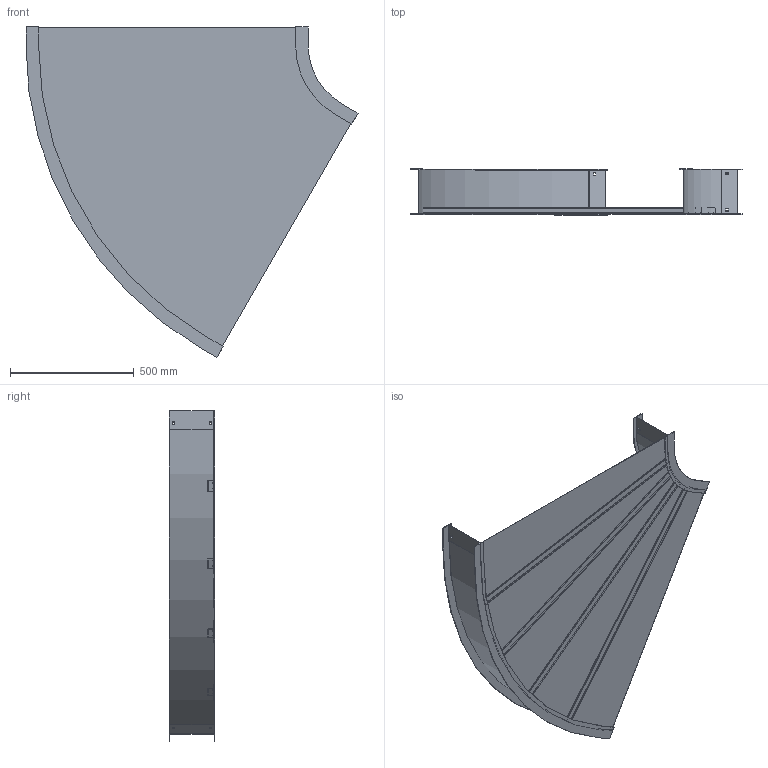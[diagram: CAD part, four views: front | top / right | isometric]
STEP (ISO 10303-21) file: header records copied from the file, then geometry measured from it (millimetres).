
FILE_DESCRIPTION((''),'2;1');
FILE_NAME('AHF742SHB6012_ASM','2010-01-28T',('erouzier'),(''),'PRO/ENGINEER BY PARAMETRIC TECHNOLOGY CORPORATION, 2008510','PRO/ENGINEER BY PARAMETRIC TECHNOLOGY CORPORATION, 2008510','');
FILE_SCHEMA(('CONFIG_CONTROL_DESIGN'));
Length unit declared in the file: inch
Products named in the file (5): CDS001813-7-60-12-I; CDS001813-7-60-54-O; CDS002159L42; ED04588-42-12-60; AHF742SHB6012_ASM
Assembly tree (7 placements, depth 2):
  AHF742SHB6012_ASM
    CDS001813-7-60-12-I
    CDS001813-7-60-54-O
    CDS002159L42  x4
    ED04588-42-12-60
Bounding box: 1341.07 x 183.9 x 1335.58 mm (x, y, z)
Volume: 3223441.7 mm3; surface area: 4366380.2 mm2
Topology: 7 solids, 7 shells, 214 faces, 600 edges, 400 vertices
Faces by surface type: plane 156, cylinder 58
Entity records: 4157 total; most frequent: CARTESIAN_POINT 716, ORIENTED_EDGE 696, DIRECTION 670, EDGE_CURVE 348, VECTOR 298, LINE 298, VERTEX_POINT 232, AXIS2_PLACEMENT_3D 186
